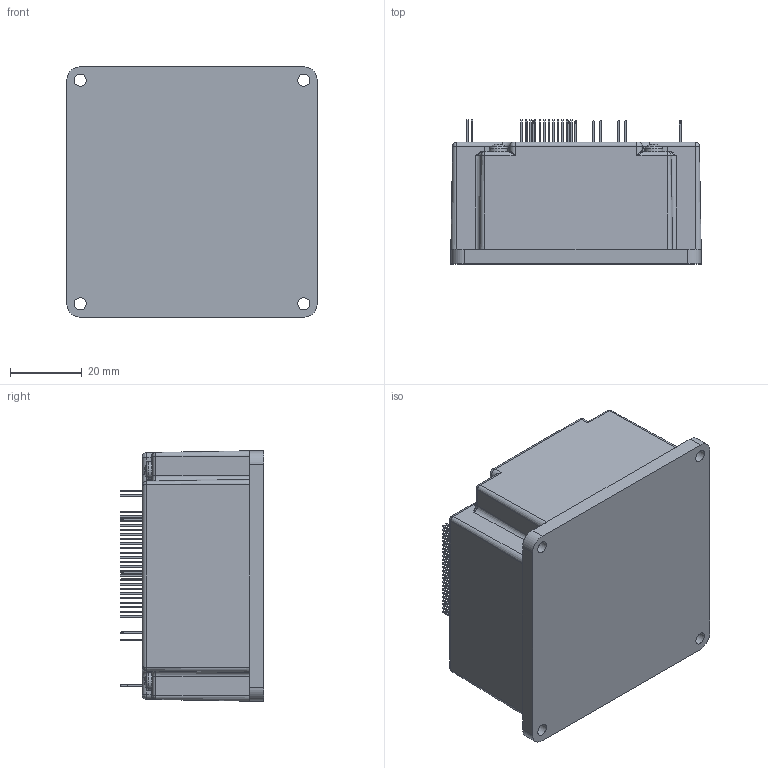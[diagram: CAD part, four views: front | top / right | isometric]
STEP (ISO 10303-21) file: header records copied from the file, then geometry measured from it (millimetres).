
FILE_DESCRIPTION (( 'STEP AP203' ), '1' );
FILE_NAME ('G-MANDOLINE_EMPTY.STEP', '2016-06-27T13:06:01', ( 'YAEL' ), ( 'Microsoft' ), 'SwSTEP 2.0', 'SolidWorks 2013', '' );
FILE_SCHEMA (( 'CONFIG_CONTROL_DESIGN' ));
Length unit declared in the file: millimetre
Products named in the file (1): G-MANDOLINE_EMPTY
Bounding box: 70 x 40.18 x 70 mm (x, y, z)
Volume: 155757.5 mm3; surface area: 20439.1 mm2
Topology: 1 solids, 1 shells, 790 faces, 1846 edges, 1176 vertices
Faces by surface type: plane 628, cylinder 58, cone 56, bspline 24, torus 20, sphere 4
Full cylindrical faces by diameter (mm): 0.2 x10, 2.5 x4, 3.4 x4
Entity records: 23077 total; most frequent: CARTESIAN_POINT 5319, ORIENTED_EDGE 3524, DIRECTION 3486, EDGE_CURVE 1762, VECTOR 1436, LINE 1436, VERTEX_POINT 1166, AXIS2_PLACEMENT_3D 1025
